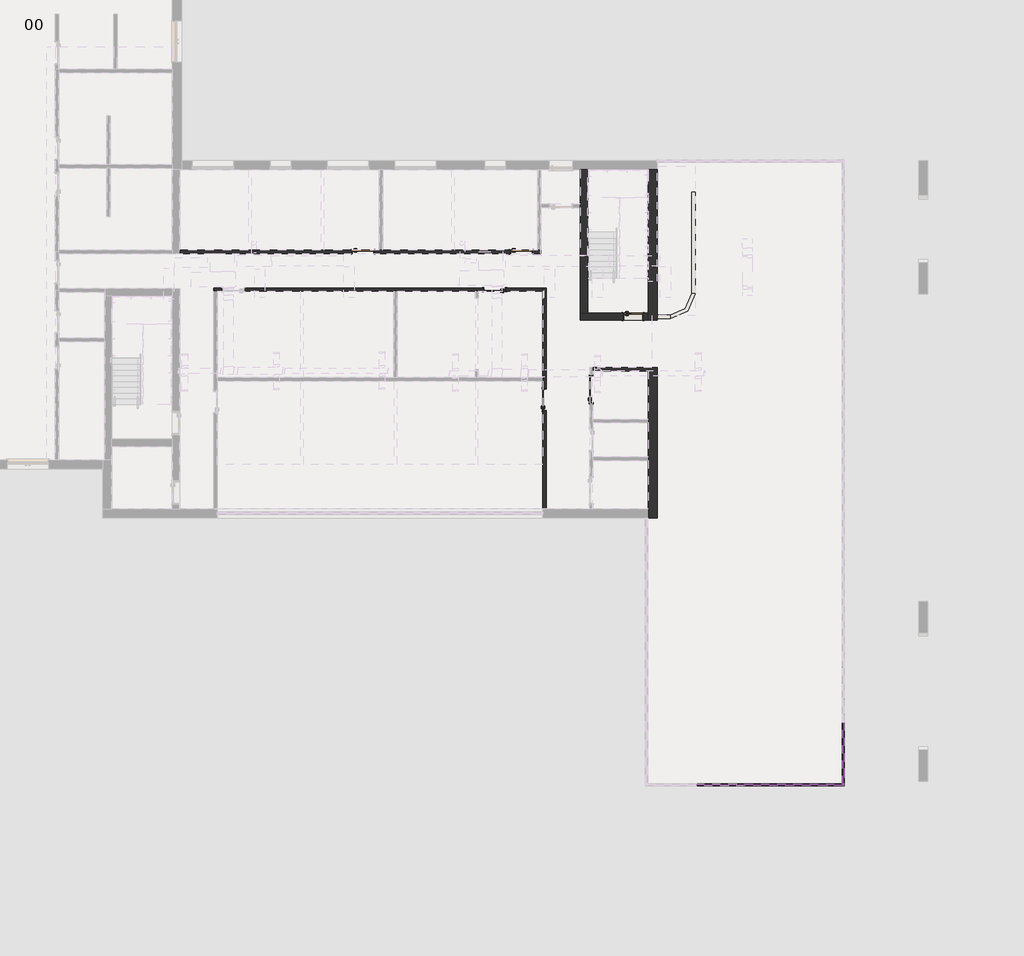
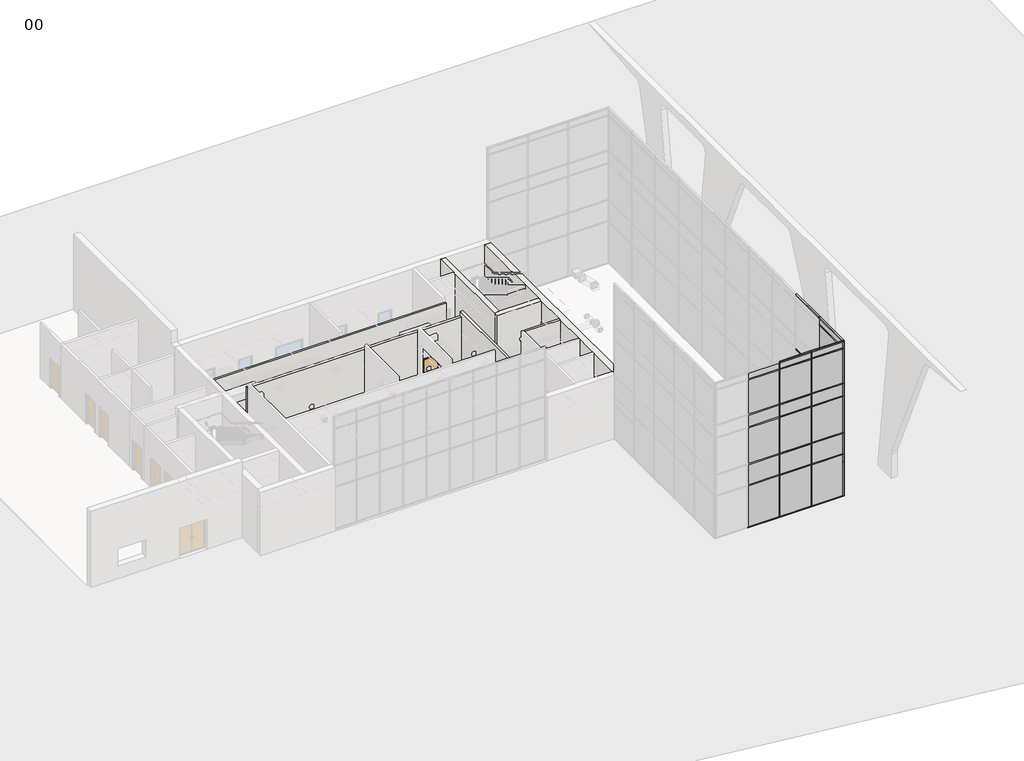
# One storey, part 4 of 12: 53 members, 24 plates, 10 walls, 6 doors.
"""IFC4 building model written with IfcOpenShell, lengths in millimetres."""

from ifc_helpers import new_model, si_unit, point, frame_2d, origin, origin_with_axes, place, context, project, spatial, polyline, circle_curve, trimmed, segment, composite_curve, outline, extrude, faceted_brep, transform, mapped, element, save
from components import doors_intsgl_1_1010x2110mm_12a6edaf, doors_intsgl_1_1200x2110mm_e831e5cc, doors_intsgl_3_910x2110mm_ed6625c4, rectangular_mullion_curtainwallmullion_rectangular_generic_8ae0e668, rectangular_mullion_curtainwallmullion_rectangular_generic_15c16c91, rectangular_mullion_curtainwallmullion_rectangular_generic_08fbcc14, rectangular_mullion_curtainwallmullion_rectangular_generic_83e55909, rectangular_mullion_curtainwallmullion_rectangular_generic_d5294c93, rectangular_mullion_curtainwallmullion_rectangular_generic_779ca808, rectangular_mullion_curtainwallmullion_rectangular_generic_397fb318, rectangular_mullion_curtainwallmullion_rectangular_generic_0800385b, rectangular_mullion_curtainwallmullion_rectangular_generic_25199054, rectangular_mullion_curtainwallmullion_rectangular_generic_12ad56c0, rectangular_mullion_curtainwallmullion_rectangular_generic_bd817207, rectangular_mullion_curtainwallmullion_rectangular_generic_55e77994, rectangular_mullion_curtainwallmullion_rectangular_generic_f1446028, rectangular_mullion_curtainwallmullion_rectangular_generic_cb270087, rectangular_mullion_curtainwallmullion_rectangular_generic_974284e1, rectangular_mullion_curtainwallmullion_rectangular_generic_654ac675, rectangular_mullion_curtainwallmullion_rectangular_generic_e7c47ca9, rectangular_mullion_curtainwallmullion_rectangular_generic_c0600e94, rectangular_mullion_curtainwallmullion_rectangular_generic_3bdb59d8, rectangular_mullion_curtainwallmullion_rectangular_generic_aa8766cf, rectangular_mullion_curtainwallmullion_rectangular_generic_a50df724, rectangular_mullion_curtainwallmullion_rectangular_generic_c640f651, rectangular_mullion_curtainwallmullion_rectangular_generic_afb0b622, rectangular_mullion_curtainwallmullion_rectangular_generic_d47b8a9d, system_panel_curtainpanel_glazed_9120b6e5, system_panel_curtainpanel_glazed_34fb785a, system_panel_curtainpanel_glazed_a0842033, system_panel_curtainpanel_glazed_19b159b3, system_panel_curtainpanel_glazed_62d472f1, system_panel_curtainpanel_glazed_9c2ad216, system_panel_curtainpanel_solid_fc584997, system_panel_curtainpanel_solid_62146879, system_panel_curtainpanel_solid_ebe6707a, system_panel_curtainpanel_solid_ff987cd1, system_panel_curtainpanel_solid_60141125, system_panel_curtainpanel_solid_5de49f81

model = new_model("IFC4")

# Units and contexts
model_context = context("Model", 3, world=origin())
ifc_project = project(units=[si_unit("LENGTHUNIT", "METRE", prefix="MILLI")], contexts=[model_context])

# Site, building, storey
site = spatial("IfcSite", under=ifc_project)
building = spatial("IfcBuilding", under=site)
storey = spatial("IfcBuildingStorey", under=building, Name="00", Elevation=0.0)

# Doors
placement = place(None, origin())
doors_intsgl_1_1010x2110mm_shape = doors_intsgl_1_1010x2110mm_12a6edaf(model_context)
element("IfcDoor", 1, ObjectType="Doors_IntSgl_1 : 1010x2110mm", at=placement, inside=storey, context=model_context, shape_type="MappedRepresentation", body=[
    mapped(doors_intsgl_1_1010x2110mm_shape, transform((433317.3206883, -385124.0026386, 0.0), x_axis=(1.0, 0.0, 0.0), y_axis=(0.0, 1.0, 0.0), z_axis=(0.0, 0.0, 1.0))),
])
element("IfcDoor", 2, ObjectType="Doors_IntSgl_1 : 1010x2110mm", at=placement, inside=storey, context=model_context, shape_type="MappedRepresentation", body=[
    mapped(doors_intsgl_1_1010x2110mm_shape, transform((440217.3206883, -385124.0026386, 0.0), x_axis=(1.0, 0.0, 0.0), y_axis=(0.0, 1.0, 0.0), z_axis=(0.0, 0.0, 1.0))),
])
element("IfcDoor", 3, ObjectType="Doors_IntSgl_1 : 1010x2110mm", at=placement, inside=storey, context=model_context, shape_type="MappedRepresentation", body=[
    mapped(doors_intsgl_1_1010x2110mm_shape, transform((439053.3206883, -386774.0026386, 0.0), x_axis=(-1.0, 0.0, 0.0), y_axis=(0.0, -1.0, 0.0), z_axis=(0.0, 0.0, 1.0))),
])
element("IfcDoor", 4, ObjectType="Doors_IntSgl_1 : 1010x2110mm", at=placement, inside=storey, context=model_context, shape_type="MappedRepresentation", body=[
    mapped(doors_intsgl_1_1010x2110mm_shape, transform((441217.3206883, -391573.0026386, 0.0), x_axis=(0.0, 1.0, 0.0), y_axis=(-1.0, 0.0, 0.0), z_axis=(0.0, 0.0, 1.0))),
])
doors_intsgl_1_1200x2110mm_shape = doors_intsgl_1_1200x2110mm_e831e5cc(model_context)
element("IfcDoor", 5, ObjectType="Doors_IntSgl_1 : 1200x2110mm", at=placement, inside=storey, context=model_context, shape_type="MappedRepresentation", body=[
    mapped(doors_intsgl_1_1200x2110mm_shape, transform((443263.3206883, -391128.0026386, 0.0), x_axis=(0.0, 1.0, 0.0), y_axis=(-1.0, 0.0, 0.0), z_axis=(0.0, 0.0, 1.0))),
])
doors_intsgl_3_910x2110mm_shape = doors_intsgl_3_910x2110mm_ed6625c4(model_context)
element("IfcDoor", 6, ObjectType="Doors_IntSgl_3 : 910x2110mm", at=placement, inside=storey, context=model_context, shape_type="MappedRepresentation", body=[
    mapped(doors_intsgl_3_910x2110mm_shape, transform((445083.3206883, -387955.0026386, 0.0), x_axis=(1.0, 0.0, 0.0), y_axis=(0.0, 1.0, 0.0), z_axis=(0.0, 0.0, 1.0))),
])

# Members
rectangular_mullion_curtainwallmullion_rectangular_generic_shape = rectangular_mullion_curtainwallmullion_rectangular_generic_8ae0e668(model_context)
element("IfcMember", 7, ObjectType="Rectangular Mullion : CurtainWallMullion_Rectangular_Generic", at=placement, inside=storey, context=model_context, shape_type="MappedRepresentation", body=[
    mapped(rectangular_mullion_curtainwallmullion_rectangular_generic_shape, transform((452089.3206882, -408366.0026386, 10486.7), x_axis=(-1.0, 0.0, 0.0), y_axis=(0.0, 1.0, 0.0), z_axis=(0.0, 0.0, -1.0))),
])
element("IfcMember", 8, ObjectType="Rectangular Mullion : CurtainWallMullion_Rectangular_Generic", at=placement, inside=storey, context=model_context, shape_type="MappedRepresentation", body=[
    mapped(rectangular_mullion_curtainwallmullion_rectangular_generic_shape, transform((449957.3206883, -408366.0026386, 10486.7), x_axis=(-1.0, 0.0, 0.0), y_axis=(0.0, 1.0, 0.0), z_axis=(0.0, 0.0, -1.0))),
])
rectangular_mullion_curtainwallmullion_rectangular_generic_2_shape = rectangular_mullion_curtainwallmullion_rectangular_generic_15c16c91(model_context)
element("IfcMember", 9, ObjectType="Rectangular Mullion : CurtainWallMullion_Rectangular_Generic", at=placement, inside=storey, context=model_context, shape_type="MappedRepresentation", body=[
    mapped(rectangular_mullion_curtainwallmullion_rectangular_generic_2_shape, transform((454246.3206883, -408366.0026386, 10486.7), x_axis=(0.0, -1.0, 0.0), y_axis=(-1.0, 0.0, 0.0), z_axis=(0.0, 0.0, -1.0))),
])
element("IfcMember", 10, ObjectType="Rectangular Mullion : CurtainWallMullion_Rectangular_Generic", at=placement, inside=storey, context=model_context, shape_type="MappedRepresentation", body=[
    mapped(rectangular_mullion_curtainwallmullion_rectangular_generic_2_shape, transform((454246.3206883, -408366.0026386, 10950.0), x_axis=(1.0, 0.0, 0.0), y_axis=(0.0, 1.0, 0.0), z_axis=(0.0, 0.0, 1.0))),
])
rectangular_mullion_curtainwallmullion_rectangular_generic_3_shape = rectangular_mullion_curtainwallmullion_rectangular_generic_08fbcc14(model_context)
element("IfcMember", 11, ObjectType="Rectangular Mullion : CurtainWallMullion_Rectangular_Generic", at=placement, inside=storey, context=model_context, shape_type="MappedRepresentation", body=[
    mapped(rectangular_mullion_curtainwallmullion_rectangular_generic_3_shape, transform((452089.3206882, -408366.0026386, 8000.0), x_axis=(-1.0, 0.0, 0.0), y_axis=(0.0, 1.0, 0.0), z_axis=(0.0, 0.0, -1.0))),
])
element("IfcMember", 12, ObjectType="Rectangular Mullion : CurtainWallMullion_Rectangular_Generic", at=placement, inside=storey, context=model_context, shape_type="MappedRepresentation", body=[
    mapped(rectangular_mullion_curtainwallmullion_rectangular_generic_3_shape, transform((449957.3206883, -408366.0026386, 8000.0), x_axis=(-1.0, 0.0, 0.0), y_axis=(0.0, 1.0, 0.0), z_axis=(0.0, 0.0, -1.0))),
])
rectangular_mullion_curtainwallmullion_rectangular_generic_4_shape = rectangular_mullion_curtainwallmullion_rectangular_generic_83e55909(model_context)
element("IfcMember", 13, ObjectType="Rectangular Mullion : CurtainWallMullion_Rectangular_Generic", at=placement, inside=storey, context=model_context, shape_type="MappedRepresentation", body=[
    mapped(rectangular_mullion_curtainwallmullion_rectangular_generic_4_shape, transform((454246.3206883, -408366.0026386, 10486.7), x_axis=(1.0, 0.0, 0.0), y_axis=(0.0, 1.0, 0.0), z_axis=(0.0, 0.0, 1.0))),
])
element("IfcMember", 14, ObjectType="Rectangular Mullion : CurtainWallMullion_Rectangular_Generic", at=placement, inside=storey, context=model_context, shape_type="MappedRepresentation", body=[
    mapped(rectangular_mullion_curtainwallmullion_rectangular_generic_4_shape, transform((454246.3206883, -408366.0026386, 8000.0), x_axis=(0.0, -1.0, 0.0), y_axis=(-1.0, 0.0, 0.0), z_axis=(0.0, 0.0, -1.0))),
])
rectangular_mullion_curtainwallmullion_rectangular_generic_5_shape = rectangular_mullion_curtainwallmullion_rectangular_generic_d5294c93(model_context)
element("IfcMember", 15, ObjectType="Rectangular Mullion : CurtainWallMullion_Rectangular_Generic", at=placement, inside=storey, context=model_context, shape_type="MappedRepresentation", body=[
    mapped(rectangular_mullion_curtainwallmullion_rectangular_generic_5_shape, transform((452089.3206882, -408366.0026386, 50.0), x_axis=(-1.0, 0.0, 0.0), y_axis=(0.0, 1.0, 0.0), z_axis=(0.0, 0.0, -1.0))),
])
element("IfcMember", 16, ObjectType="Rectangular Mullion : CurtainWallMullion_Rectangular_Generic", at=placement, inside=storey, context=model_context, shape_type="MappedRepresentation", body=[
    mapped(rectangular_mullion_curtainwallmullion_rectangular_generic_5_shape, transform((449957.3206883, -408366.0026386, 50.0), x_axis=(-1.0, 0.0, 0.0), y_axis=(0.0, 1.0, 0.0), z_axis=(0.0, 0.0, -1.0))),
])
rectangular_mullion_curtainwallmullion_rectangular_generic_6_shape = rectangular_mullion_curtainwallmullion_rectangular_generic_779ca808(model_context)
element("IfcMember", 17, ObjectType="Rectangular Mullion : CurtainWallMullion_Rectangular_Generic", at=placement, inside=storey, context=model_context, shape_type="MappedRepresentation", body=[
    mapped(rectangular_mullion_curtainwallmullion_rectangular_generic_6_shape, transform((454246.3206883, -408366.0026386, 2450.0), x_axis=(1.0, 0.0, 0.0), y_axis=(0.0, 1.0, 0.0), z_axis=(0.0, 0.0, 1.0))),
])
rectangular_mullion_curtainwallmullion_rectangular_generic_7_shape = rectangular_mullion_curtainwallmullion_rectangular_generic_397fb318(model_context)
element("IfcMember", 18, ObjectType="Rectangular Mullion : CurtainWallMullion_Rectangular_Generic", at=placement, inside=storey, context=model_context, shape_type="MappedRepresentation", body=[
    mapped(rectangular_mullion_curtainwallmullion_rectangular_generic_7_shape, transform((454246.3206883, -408366.0026386, 50.0), x_axis=(0.0, -1.0, 0.0), y_axis=(-1.0, 0.0, 0.0), z_axis=(0.0, 0.0, -1.0))),
])
rectangular_mullion_curtainwallmullion_rectangular_generic_8_shape = rectangular_mullion_curtainwallmullion_rectangular_generic_0800385b(model_context)
element("IfcMember", 19, ObjectType="Rectangular Mullion : CurtainWallMullion_Rectangular_Generic", at=placement, inside=storey, context=model_context, shape_type="MappedRepresentation", body=[
    mapped(rectangular_mullion_curtainwallmullion_rectangular_generic_8_shape, transform((454246.3206883, -408366.0026386, 11000.0), x_axis=(0.0, 0.0, 1.0), y_axis=(-1.0, 0.0, 0.0), z_axis=(0.0, -1.0, 0.0))),
])
rectangular_mullion_curtainwallmullion_rectangular_generic_9_shape = rectangular_mullion_curtainwallmullion_rectangular_generic_25199054(model_context)
element("IfcMember", 20, ObjectType="Rectangular Mullion : CurtainWallMullion_Rectangular_Generic", at=placement, inside=storey, context=model_context, shape_type="MappedRepresentation", body=[
    mapped(rectangular_mullion_curtainwallmullion_rectangular_generic_9_shape, transform((452089.3206882, -408366.0026386, 11000.0), x_axis=(0.0, 0.0, 1.0), y_axis=(0.0, 1.0, 0.0), z_axis=(-1.0, 0.0, 0.0))),
])
rectangular_mullion_curtainwallmullion_rectangular_generic_10_shape = rectangular_mullion_curtainwallmullion_rectangular_generic_12ad56c0(model_context)
element("IfcMember", 21, ObjectType="Rectangular Mullion : CurtainWallMullion_Rectangular_Generic", at=placement, inside=storey, context=model_context, shape_type="MappedRepresentation", body=[
    mapped(rectangular_mullion_curtainwallmullion_rectangular_generic_10_shape, transform((454246.3206883, -405626.4026384, 11000.0), x_axis=(0.0, 0.0, 1.0), y_axis=(-1.0, 0.0, 0.0), z_axis=(0.0, -1.0, 0.0))),
])
rectangular_mullion_curtainwallmullion_rectangular_generic_11_shape = rectangular_mullion_curtainwallmullion_rectangular_generic_bd817207(model_context)
element("IfcMember", 22, ObjectType="Rectangular Mullion : CurtainWallMullion_Rectangular_Generic", at=placement, inside=storey, context=model_context, shape_type="MappedRepresentation", body=[
    mapped(rectangular_mullion_curtainwallmullion_rectangular_generic_11_shape, transform((454246.3206883, -405601.4026384, 4500.0), x_axis=(0.0, 0.0, 1.0), y_axis=(-1.0, 0.0, 0.0), z_axis=(0.0, -1.0, 0.0))),
])
element("IfcMember", 23, ObjectType="Rectangular Mullion : CurtainWallMullion_Rectangular_Generic", at=placement, inside=storey, context=model_context, shape_type="MappedRepresentation", body=[
    mapped(rectangular_mullion_curtainwallmullion_rectangular_generic_11_shape, transform((454246.3206883, -408316.0026386, 4500.0), x_axis=(0.0, 0.0, 1.0), y_axis=(-1.0, 0.0, 0.0), z_axis=(0.0, -1.0, 0.0))),
])
element("IfcMember", 24, ObjectType="Rectangular Mullion : CurtainWallMullion_Rectangular_Generic", at=placement, inside=storey, context=model_context, shape_type="MappedRepresentation", body=[
    mapped(rectangular_mullion_curtainwallmullion_rectangular_generic_11_shape, transform((454246.3206883, -405601.4026384, 7100.0), x_axis=(0.0, 0.0, 1.0), y_axis=(-1.0, 0.0, 0.0), z_axis=(0.0, -1.0, 0.0))),
])
element("IfcMember", 25, ObjectType="Rectangular Mullion : CurtainWallMullion_Rectangular_Generic", at=placement, inside=storey, context=model_context, shape_type="MappedRepresentation", body=[
    mapped(rectangular_mullion_curtainwallmullion_rectangular_generic_11_shape, transform((454246.3206883, -408316.0026386, 7100.0), x_axis=(0.0, 0.0, 1.0), y_axis=(-1.0, 0.0, 0.0), z_axis=(0.0, -1.0, 0.0))),
])
element("IfcMember", 26, ObjectType="Rectangular Mullion : CurtainWallMullion_Rectangular_Generic", at=placement, inside=storey, context=model_context, shape_type="MappedRepresentation", body=[
    mapped(rectangular_mullion_curtainwallmullion_rectangular_generic_11_shape, transform((454246.3206883, -408316.0026386, 10486.7), x_axis=(0.0, 0.0, 1.0), y_axis=(-1.0, 0.0, 0.0), z_axis=(0.0, -1.0, 0.0))),
])
element("IfcMember", 27, ObjectType="Rectangular Mullion : CurtainWallMullion_Rectangular_Generic", at=placement, inside=storey, context=model_context, shape_type="MappedRepresentation", body=[
    mapped(rectangular_mullion_curtainwallmullion_rectangular_generic_11_shape, transform((454246.3206883, -408316.0026386, 8000.0), x_axis=(0.0, 0.0, 1.0), y_axis=(-1.0, 0.0, 0.0), z_axis=(0.0, -1.0, 0.0))),
])
element("IfcMember", 28, ObjectType="Rectangular Mullion : CurtainWallMullion_Rectangular_Generic", at=placement, inside=storey, context=model_context, shape_type="MappedRepresentation", body=[
    mapped(rectangular_mullion_curtainwallmullion_rectangular_generic_11_shape, transform((454246.3206883, -408316.0026386, 3000.0), x_axis=(0.0, 0.0, 1.0), y_axis=(-1.0, 0.0, 0.0), z_axis=(0.0, -1.0, 0.0))),
])
rectangular_mullion_curtainwallmullion_rectangular_generic_12_shape = rectangular_mullion_curtainwallmullion_rectangular_generic_55e77994(model_context)
element("IfcMember", 29, ObjectType="Rectangular Mullion : CurtainWallMullion_Rectangular_Generic", at=placement, inside=storey, context=model_context, shape_type="MappedRepresentation", body=[
    mapped(rectangular_mullion_curtainwallmullion_rectangular_generic_12_shape, transform((454246.3206883, -405626.4026384, 0.0), x_axis=(0.0, 0.0, -1.0), y_axis=(-1.0, 0.0, 0.0), z_axis=(0.0, 1.0, 0.0))),
])
rectangular_mullion_curtainwallmullion_rectangular_generic_13_shape = rectangular_mullion_curtainwallmullion_rectangular_generic_f1446028(model_context)
element("IfcMember", 30, ObjectType="Rectangular Mullion : CurtainWallMullion_Rectangular_Generic", at=placement, inside=storey, context=model_context, shape_type="MappedRepresentation", body=[
    mapped(rectangular_mullion_curtainwallmullion_rectangular_generic_13_shape, transform((454246.3206883, -408366.0026386, 0.0), x_axis=(0.0, 0.0, -1.0), y_axis=(0.0, 1.0, 0.0), z_axis=(1.0, 0.0, 0.0))),
])
rectangular_mullion_curtainwallmullion_rectangular_generic_14_shape = rectangular_mullion_curtainwallmullion_rectangular_generic_cb270087(model_context)
element("IfcMember", 31, ObjectType="Rectangular Mullion : CurtainWallMullion_Rectangular_Generic", at=placement, inside=storey, context=model_context, shape_type="MappedRepresentation", body=[
    mapped(rectangular_mullion_curtainwallmullion_rectangular_generic_14_shape, transform((449957.3206883, -408366.0026386, 11000.0), x_axis=(0.0, 0.0, 1.0), y_axis=(0.0, 1.0, 0.0), z_axis=(-1.0, 0.0, 0.0))),
])
element("IfcMember", 32, ObjectType="Rectangular Mullion : CurtainWallMullion_Rectangular_Generic", at=placement, inside=storey, context=model_context, shape_type="MappedRepresentation", body=[
    mapped(rectangular_mullion_curtainwallmullion_rectangular_generic_14_shape, transform((452089.3206882, -408366.0026386, 0.0), x_axis=(0.0, 0.0, -1.0), y_axis=(0.0, 1.0, 0.0), z_axis=(1.0, 0.0, 0.0))),
])
element("IfcMember", 33, ObjectType="Rectangular Mullion : CurtainWallMullion_Rectangular_Generic", at=placement, inside=storey, context=model_context, shape_type="MappedRepresentation", body=[
    mapped(rectangular_mullion_curtainwallmullion_rectangular_generic_14_shape, transform((449957.3206883, -408366.0026386, 0.0), x_axis=(0.0, 0.0, -1.0), y_axis=(0.0, 1.0, 0.0), z_axis=(1.0, 0.0, 0.0))),
])
rectangular_mullion_curtainwallmullion_rectangular_generic_15_shape = rectangular_mullion_curtainwallmullion_rectangular_generic_974284e1(model_context)
element("IfcMember", 34, ObjectType="Rectangular Mullion : CurtainWallMullion_Rectangular_Generic", at=placement, inside=storey, context=model_context, shape_type="MappedRepresentation", body=[
    mapped(rectangular_mullion_curtainwallmullion_rectangular_generic_15_shape, transform((452114.3206882, -408366.0026386, 4500.0), x_axis=(0.0, 0.0, 1.0), y_axis=(0.0, 1.0, 0.0), z_axis=(-1.0, 0.0, 0.0))),
])
element("IfcMember", 35, ObjectType="Rectangular Mullion : CurtainWallMullion_Rectangular_Generic", at=placement, inside=storey, context=model_context, shape_type="MappedRepresentation", body=[
    mapped(rectangular_mullion_curtainwallmullion_rectangular_generic_15_shape, transform((449982.3206883, -408366.0026386, 4500.0), x_axis=(0.0, 0.0, 1.0), y_axis=(0.0, 1.0, 0.0), z_axis=(-1.0, 0.0, 0.0))),
])
element("IfcMember", 36, ObjectType="Rectangular Mullion : CurtainWallMullion_Rectangular_Generic", at=placement, inside=storey, context=model_context, shape_type="MappedRepresentation", body=[
    mapped(rectangular_mullion_curtainwallmullion_rectangular_generic_15_shape, transform((452114.3206882, -408366.0026386, 7100.0), x_axis=(0.0, 0.0, 1.0), y_axis=(0.0, 1.0, 0.0), z_axis=(-1.0, 0.0, 0.0))),
])
element("IfcMember", 37, ObjectType="Rectangular Mullion : CurtainWallMullion_Rectangular_Generic", at=placement, inside=storey, context=model_context, shape_type="MappedRepresentation", body=[
    mapped(rectangular_mullion_curtainwallmullion_rectangular_generic_15_shape, transform((449982.3206883, -408366.0026386, 7100.0), x_axis=(0.0, 0.0, 1.0), y_axis=(0.0, 1.0, 0.0), z_axis=(-1.0, 0.0, 0.0))),
])
element("IfcMember", 38, ObjectType="Rectangular Mullion : CurtainWallMullion_Rectangular_Generic", at=placement, inside=storey, context=model_context, shape_type="MappedRepresentation", body=[
    mapped(rectangular_mullion_curtainwallmullion_rectangular_generic_15_shape, transform((452114.3206882, -408366.0026386, 10486.7), x_axis=(0.0, 0.0, 1.0), y_axis=(0.0, 1.0, 0.0), z_axis=(-1.0, 0.0, 0.0))),
])
element("IfcMember", 39, ObjectType="Rectangular Mullion : CurtainWallMullion_Rectangular_Generic", at=placement, inside=storey, context=model_context, shape_type="MappedRepresentation", body=[
    mapped(rectangular_mullion_curtainwallmullion_rectangular_generic_15_shape, transform((449982.3206883, -408366.0026386, 10486.7), x_axis=(0.0, 0.0, 1.0), y_axis=(0.0, 1.0, 0.0), z_axis=(-1.0, 0.0, 0.0))),
])
element("IfcMember", 40, ObjectType="Rectangular Mullion : CurtainWallMullion_Rectangular_Generic", at=placement, inside=storey, context=model_context, shape_type="MappedRepresentation", body=[
    mapped(rectangular_mullion_curtainwallmullion_rectangular_generic_15_shape, transform((452114.3206882, -408366.0026386, 3000.0), x_axis=(0.0, 0.0, 1.0), y_axis=(0.0, 1.0, 0.0), z_axis=(-1.0, 0.0, 0.0))),
])
element("IfcMember", 41, ObjectType="Rectangular Mullion : CurtainWallMullion_Rectangular_Generic", at=placement, inside=storey, context=model_context, shape_type="MappedRepresentation", body=[
    mapped(rectangular_mullion_curtainwallmullion_rectangular_generic_15_shape, transform((449982.3206883, -408366.0026386, 3000.0), x_axis=(0.0, 0.0, 1.0), y_axis=(0.0, 1.0, 0.0), z_axis=(-1.0, 0.0, 0.0))),
])
element("IfcMember", 42, ObjectType="Rectangular Mullion : CurtainWallMullion_Rectangular_Generic", at=placement, inside=storey, context=model_context, shape_type="MappedRepresentation", body=[
    mapped(rectangular_mullion_curtainwallmullion_rectangular_generic_15_shape, transform((452114.3206882, -408366.0026386, 8000.0), x_axis=(0.0, 0.0, 1.0), y_axis=(0.0, 1.0, 0.0), z_axis=(-1.0, 0.0, 0.0))),
])
element("IfcMember", 43, ObjectType="Rectangular Mullion : CurtainWallMullion_Rectangular_Generic", at=placement, inside=storey, context=model_context, shape_type="MappedRepresentation", body=[
    mapped(rectangular_mullion_curtainwallmullion_rectangular_generic_15_shape, transform((449982.3206883, -408366.0026386, 8000.0), x_axis=(0.0, 0.0, 1.0), y_axis=(0.0, 1.0, 0.0), z_axis=(-1.0, 0.0, 0.0))),
])
rectangular_mullion_curtainwallmullion_rectangular_generic_16_shape = rectangular_mullion_curtainwallmullion_rectangular_generic_654ac675(model_context)
element("IfcMember", 44, ObjectType="Rectangular Mullion : CurtainWallMullion_Rectangular_Generic", at=placement, inside=storey, context=model_context, shape_type="MappedRepresentation", body=[
    mapped(rectangular_mullion_curtainwallmullion_rectangular_generic_16_shape, transform((452089.3206882, -408366.0026386, 4500.0), x_axis=(-1.0, 0.0, 0.0), y_axis=(0.0, 1.0, 0.0), z_axis=(0.0, 0.0, -1.0))),
])
element("IfcMember", 45, ObjectType="Rectangular Mullion : CurtainWallMullion_Rectangular_Generic", at=placement, inside=storey, context=model_context, shape_type="MappedRepresentation", body=[
    mapped(rectangular_mullion_curtainwallmullion_rectangular_generic_16_shape, transform((449957.3206883, -408366.0026386, 4500.0), x_axis=(-1.0, 0.0, 0.0), y_axis=(0.0, 1.0, 0.0), z_axis=(0.0, 0.0, -1.0))),
])
rectangular_mullion_curtainwallmullion_rectangular_generic_17_shape = rectangular_mullion_curtainwallmullion_rectangular_generic_e7c47ca9(model_context)
element("IfcMember", 46, ObjectType="Rectangular Mullion : CurtainWallMullion_Rectangular_Generic", at=placement, inside=storey, context=model_context, shape_type="MappedRepresentation", body=[
    mapped(rectangular_mullion_curtainwallmullion_rectangular_generic_17_shape, transform((454246.3206883, -408366.0026386, 4500.0), x_axis=(0.0, -1.0, 0.0), y_axis=(-1.0, 0.0, 0.0), z_axis=(0.0, 0.0, -1.0))),
])
element("IfcMember", 47, ObjectType="Rectangular Mullion : CurtainWallMullion_Rectangular_Generic", at=placement, inside=storey, context=model_context, shape_type="MappedRepresentation", body=[
    mapped(rectangular_mullion_curtainwallmullion_rectangular_generic_17_shape, transform((454246.3206883, -408366.0026386, 7100.0), x_axis=(1.0, 0.0, 0.0), y_axis=(0.0, 1.0, 0.0), z_axis=(0.0, 0.0, 1.0))),
])
rectangular_mullion_curtainwallmullion_rectangular_generic_18_shape = rectangular_mullion_curtainwallmullion_rectangular_generic_c0600e94(model_context)
element("IfcMember", 48, ObjectType="Rectangular Mullion : CurtainWallMullion_Rectangular_Generic", at=placement, inside=storey, context=model_context, shape_type="MappedRepresentation", body=[
    mapped(rectangular_mullion_curtainwallmullion_rectangular_generic_18_shape, transform((452089.3206882, -408366.0026386, 3000.0), x_axis=(-1.0, 0.0, 0.0), y_axis=(0.0, 1.0, 0.0), z_axis=(0.0, 0.0, -1.0))),
])
element("IfcMember", 49, ObjectType="Rectangular Mullion : CurtainWallMullion_Rectangular_Generic", at=placement, inside=storey, context=model_context, shape_type="MappedRepresentation", body=[
    mapped(rectangular_mullion_curtainwallmullion_rectangular_generic_18_shape, transform((449957.3206883, -408366.0026386, 3000.0), x_axis=(-1.0, 0.0, 0.0), y_axis=(0.0, 1.0, 0.0), z_axis=(0.0, 0.0, -1.0))),
])
rectangular_mullion_curtainwallmullion_rectangular_generic_19_shape = rectangular_mullion_curtainwallmullion_rectangular_generic_3bdb59d8(model_context)
element("IfcMember", 50, ObjectType="Rectangular Mullion : CurtainWallMullion_Rectangular_Generic", at=placement, inside=storey, context=model_context, shape_type="MappedRepresentation", body=[
    mapped(rectangular_mullion_curtainwallmullion_rectangular_generic_19_shape, transform((454246.3206883, -408366.0026386, 3000.0), x_axis=(0.0, -1.0, 0.0), y_axis=(-1.0, 0.0, 0.0), z_axis=(0.0, 0.0, -1.0))),
])
element("IfcMember", 51, ObjectType="Rectangular Mullion : CurtainWallMullion_Rectangular_Generic", at=placement, inside=storey, context=model_context, shape_type="MappedRepresentation", body=[
    mapped(rectangular_mullion_curtainwallmullion_rectangular_generic_19_shape, transform((454246.3206883, -408366.0026386, 4500.0), x_axis=(1.0, 0.0, 0.0), y_axis=(0.0, 1.0, 0.0), z_axis=(0.0, 0.0, 1.0))),
])
rectangular_mullion_curtainwallmullion_rectangular_generic_20_shape = rectangular_mullion_curtainwallmullion_rectangular_generic_aa8766cf(model_context)
element("IfcMember", 52, ObjectType="Rectangular Mullion : CurtainWallMullion_Rectangular_Generic", at=placement, inside=storey, context=model_context, shape_type="MappedRepresentation", body=[
    mapped(rectangular_mullion_curtainwallmullion_rectangular_generic_20_shape, transform((452089.3206882, -408366.0026386, 2450.0), x_axis=(-1.0, 0.0, 0.0), y_axis=(0.0, 1.0, 0.0), z_axis=(0.0, 0.0, -1.0))),
])
element("IfcMember", 53, ObjectType="Rectangular Mullion : CurtainWallMullion_Rectangular_Generic", at=placement, inside=storey, context=model_context, shape_type="MappedRepresentation", body=[
    mapped(rectangular_mullion_curtainwallmullion_rectangular_generic_20_shape, transform((449957.3206883, -408366.0026386, 2450.0), x_axis=(-1.0, 0.0, 0.0), y_axis=(0.0, 1.0, 0.0), z_axis=(0.0, 0.0, -1.0))),
])
rectangular_mullion_curtainwallmullion_rectangular_generic_21_shape = rectangular_mullion_curtainwallmullion_rectangular_generic_a50df724(model_context)
element("IfcMember", 54, ObjectType="Rectangular Mullion : CurtainWallMullion_Rectangular_Generic", at=placement, inside=storey, context=model_context, shape_type="MappedRepresentation", body=[
    mapped(rectangular_mullion_curtainwallmullion_rectangular_generic_21_shape, transform((454246.3206883, -408366.0026386, 3000.0), x_axis=(1.0, 0.0, 0.0), y_axis=(0.0, 1.0, 0.0), z_axis=(0.0, 0.0, 1.0))),
])
rectangular_mullion_curtainwallmullion_rectangular_generic_22_shape = rectangular_mullion_curtainwallmullion_rectangular_generic_c640f651(model_context)
element("IfcMember", 55, ObjectType="Rectangular Mullion : CurtainWallMullion_Rectangular_Generic", at=placement, inside=storey, context=model_context, shape_type="MappedRepresentation", body=[
    mapped(rectangular_mullion_curtainwallmullion_rectangular_generic_22_shape, transform((452089.3206882, -408366.0026386, 7100.0), x_axis=(-1.0, 0.0, 0.0), y_axis=(0.0, 1.0, 0.0), z_axis=(0.0, 0.0, -1.0))),
])
element("IfcMember", 56, ObjectType="Rectangular Mullion : CurtainWallMullion_Rectangular_Generic", at=placement, inside=storey, context=model_context, shape_type="MappedRepresentation", body=[
    mapped(rectangular_mullion_curtainwallmullion_rectangular_generic_22_shape, transform((449957.3206883, -408366.0026386, 7100.0), x_axis=(-1.0, 0.0, 0.0), y_axis=(0.0, 1.0, 0.0), z_axis=(0.0, 0.0, -1.0))),
])
rectangular_mullion_curtainwallmullion_rectangular_generic_23_shape = rectangular_mullion_curtainwallmullion_rectangular_generic_afb0b622(model_context)
element("IfcMember", 57, ObjectType="Rectangular Mullion : CurtainWallMullion_Rectangular_Generic", at=placement, inside=storey, context=model_context, shape_type="MappedRepresentation", body=[
    mapped(rectangular_mullion_curtainwallmullion_rectangular_generic_23_shape, transform((454246.3206883, -408366.0026386, 7100.0), x_axis=(0.0, -1.0, 0.0), y_axis=(-1.0, 0.0, 0.0), z_axis=(0.0, 0.0, -1.0))),
])
element("IfcMember", 58, ObjectType="Rectangular Mullion : CurtainWallMullion_Rectangular_Generic", at=placement, inside=storey, context=model_context, shape_type="MappedRepresentation", body=[
    mapped(rectangular_mullion_curtainwallmullion_rectangular_generic_23_shape, transform((454246.3206883, -408366.0026386, 8000.0), x_axis=(1.0, 0.0, 0.0), y_axis=(0.0, 1.0, 0.0), z_axis=(0.0, 0.0, 1.0))),
])
rectangular_mullion_curtainwallmullion_rectangular_generic_24_shape = rectangular_mullion_curtainwallmullion_rectangular_generic_d47b8a9d(model_context)
element("IfcMember", 59, ObjectType="Rectangular Mullion : CurtainWallMullion_Rectangular_Generic", at=placement, inside=storey, context=model_context, shape_type="MappedRepresentation", body=[
    mapped(rectangular_mullion_curtainwallmullion_rectangular_generic_24_shape, transform((454246.3206883, -408366.0026386, 2425.0), x_axis=(0.0, -1.0, 0.0), y_axis=(-1.0, 0.0, 0.0), z_axis=(0.0, 0.0, -1.0))),
])

# Plates
system_panel_curtainpanel_glazed_shape = system_panel_curtainpanel_glazed_9120b6e5(model_context)
element("IfcPlate", 60, ObjectType="System Panel : CurtainPanel_Glazed", at=placement, inside=storey, context=model_context, shape_type="MappedRepresentation", body=[
    mapped(system_panel_curtainpanel_glazed_shape, transform((453155.3206883, -408366.0026386, 8025.0), x_axis=(-1.0, 0.0, 0.0), y_axis=(0.0, -1.0, 0.0), z_axis=(0.0, 0.0, 1.0))),
])
element("IfcPlate", 61, ObjectType="System Panel : CurtainPanel_Glazed", at=placement, inside=storey, context=model_context, shape_type="MappedRepresentation", body=[
    mapped(system_panel_curtainpanel_glazed_shape, transform((451023.3206883, -408366.0026386, 8025.0), x_axis=(-1.0, 0.0, 0.0), y_axis=(0.0, -1.0, 0.0), z_axis=(0.0, 0.0, 1.0))),
])
element("IfcPlate", 62, ObjectType="System Panel : CurtainPanel_Glazed", at=placement, inside=storey, context=model_context, shape_type="MappedRepresentation", body=[
    mapped(system_panel_curtainpanel_glazed_shape, transform((448891.3206884, -408366.0026386, 8025.0), x_axis=(-1.0, 0.0, 0.0), y_axis=(0.0, -1.0, 0.0), z_axis=(0.0, 0.0, 1.0))),
])
system_panel_curtainpanel_glazed_2_shape = system_panel_curtainpanel_glazed_34fb785a(model_context)
element("IfcPlate", 63, ObjectType="System Panel : CurtainPanel_Glazed", at=placement, inside=storey, context=model_context, shape_type="MappedRepresentation", body=[
    mapped(system_panel_curtainpanel_glazed_2_shape, transform((454246.3206883, -406983.7026385, 8025.0), x_axis=(0.0, -1.0, 0.0), y_axis=(1.0, 0.0, 0.0), z_axis=(0.0, 0.0, 1.0))),
])
system_panel_curtainpanel_glazed_3_shape = system_panel_curtainpanel_glazed_a0842033(model_context)
element("IfcPlate", 64, ObjectType="System Panel : CurtainPanel_Glazed", at=placement, inside=storey, context=model_context, shape_type="MappedRepresentation", body=[
    mapped(system_panel_curtainpanel_glazed_3_shape, transform((453155.3206883, -408366.0026386, 50.0), x_axis=(-1.0, 0.0, 0.0), y_axis=(0.0, -1.0, 0.0), z_axis=(0.0, 0.0, 1.0))),
])
element("IfcPlate", 65, ObjectType="System Panel : CurtainPanel_Glazed", at=placement, inside=storey, context=model_context, shape_type="MappedRepresentation", body=[
    mapped(system_panel_curtainpanel_glazed_3_shape, transform((451023.3206883, -408366.0026386, 50.0), x_axis=(-1.0, 0.0, 0.0), y_axis=(0.0, -1.0, 0.0), z_axis=(0.0, 0.0, 1.0))),
])
element("IfcPlate", 66, ObjectType="System Panel : CurtainPanel_Glazed", at=placement, inside=storey, context=model_context, shape_type="MappedRepresentation", body=[
    mapped(system_panel_curtainpanel_glazed_3_shape, transform((448891.3206884, -408366.0026386, 50.0), x_axis=(-1.0, 0.0, 0.0), y_axis=(0.0, -1.0, 0.0), z_axis=(0.0, 0.0, 1.0))),
])
system_panel_curtainpanel_glazed_4_shape = system_panel_curtainpanel_glazed_19b159b3(model_context)
element("IfcPlate", 67, ObjectType="System Panel : CurtainPanel_Glazed", at=placement, inside=storey, context=model_context, shape_type="MappedRepresentation", body=[
    mapped(system_panel_curtainpanel_glazed_4_shape, transform((453155.3206883, -408366.0026386, 4525.0), x_axis=(-1.0, 0.0, 0.0), y_axis=(0.0, -1.0, 0.0), z_axis=(0.0, 0.0, 1.0))),
])
element("IfcPlate", 68, ObjectType="System Panel : CurtainPanel_Glazed", at=placement, inside=storey, context=model_context, shape_type="MappedRepresentation", body=[
    mapped(system_panel_curtainpanel_glazed_4_shape, transform((451023.3206883, -408366.0026386, 4525.0), x_axis=(-1.0, 0.0, 0.0), y_axis=(0.0, -1.0, 0.0), z_axis=(0.0, 0.0, 1.0))),
])
element("IfcPlate", 69, ObjectType="System Panel : CurtainPanel_Glazed", at=placement, inside=storey, context=model_context, shape_type="MappedRepresentation", body=[
    mapped(system_panel_curtainpanel_glazed_4_shape, transform((448891.3206884, -408366.0026386, 4525.0), x_axis=(-1.0, 0.0, 0.0), y_axis=(0.0, -1.0, 0.0), z_axis=(0.0, 0.0, 1.0))),
])
system_panel_curtainpanel_glazed_5_shape = system_panel_curtainpanel_glazed_62d472f1(model_context)
element("IfcPlate", 70, ObjectType="System Panel : CurtainPanel_Glazed", at=placement, inside=storey, context=model_context, shape_type="MappedRepresentation", body=[
    mapped(system_panel_curtainpanel_glazed_5_shape, transform((454246.3206883, -406983.7026385, 50.0), x_axis=(0.0, -1.0, 0.0), y_axis=(1.0, 0.0, 0.0), z_axis=(0.0, 0.0, 1.0))),
])
system_panel_curtainpanel_glazed_6_shape = system_panel_curtainpanel_glazed_9c2ad216(model_context)
element("IfcPlate", 71, ObjectType="System Panel : CurtainPanel_Glazed", at=placement, inside=storey, context=model_context, shape_type="MappedRepresentation", body=[
    mapped(system_panel_curtainpanel_glazed_6_shape, transform((454246.3206883, -406983.7026385, 4525.0), x_axis=(0.0, -1.0, 0.0), y_axis=(1.0, 0.0, 0.0), z_axis=(0.0, 0.0, 1.0))),
])
system_panel_curtainpanel_solid_shape = system_panel_curtainpanel_solid_fc584997(model_context)
element("IfcPlate", 72, ObjectType="System Panel : CurtainPanel_Solid", at=placement, inside=storey, context=model_context, shape_type="MappedRepresentation", body=[
    mapped(system_panel_curtainpanel_solid_shape, transform((454246.3206883, -406983.7026385, 10511.7), x_axis=(0.0, -1.0, 0.0), y_axis=(1.0, 0.0, 0.0), z_axis=(0.0, 0.0, 1.0))),
])
system_panel_curtainpanel_solid_2_shape = system_panel_curtainpanel_solid_62146879(model_context)
element("IfcPlate", 73, ObjectType="System Panel : CurtainPanel_Solid", at=placement, inside=storey, context=model_context, shape_type="MappedRepresentation", body=[
    mapped(system_panel_curtainpanel_solid_2_shape, transform((453155.3206883, -408366.0026386, 10511.7), x_axis=(-1.0, 0.0, 0.0), y_axis=(0.0, -1.0, 0.0), z_axis=(0.0, 0.0, 1.0))),
])
element("IfcPlate", 74, ObjectType="System Panel : CurtainPanel_Solid", at=placement, inside=storey, context=model_context, shape_type="MappedRepresentation", body=[
    mapped(system_panel_curtainpanel_solid_2_shape, transform((451023.3206883, -408366.0026386, 10511.7), x_axis=(-1.0, 0.0, 0.0), y_axis=(0.0, -1.0, 0.0), z_axis=(0.0, 0.0, 1.0))),
])
element("IfcPlate", 75, ObjectType="System Panel : CurtainPanel_Solid", at=placement, inside=storey, context=model_context, shape_type="MappedRepresentation", body=[
    mapped(system_panel_curtainpanel_solid_2_shape, transform((448891.3206884, -408366.0026386, 10511.7), x_axis=(-1.0, 0.0, 0.0), y_axis=(0.0, -1.0, 0.0), z_axis=(0.0, 0.0, 1.0))),
])
system_panel_curtainpanel_solid_3_shape = system_panel_curtainpanel_solid_ebe6707a(model_context)
element("IfcPlate", 76, ObjectType="System Panel : CurtainPanel_Solid", at=placement, inside=storey, context=model_context, shape_type="MappedRepresentation", body=[
    mapped(system_panel_curtainpanel_solid_3_shape, transform((453155.3206883, -408366.0026386, 3025.0), x_axis=(-1.0, 0.0, 0.0), y_axis=(0.0, -1.0, 0.0), z_axis=(0.0, 0.0, 1.0))),
])
element("IfcPlate", 77, ObjectType="System Panel : CurtainPanel_Solid", at=placement, inside=storey, context=model_context, shape_type="MappedRepresentation", body=[
    mapped(system_panel_curtainpanel_solid_3_shape, transform((451023.3206883, -408366.0026386, 3025.0), x_axis=(-1.0, 0.0, 0.0), y_axis=(0.0, -1.0, 0.0), z_axis=(0.0, 0.0, 1.0))),
])
element("IfcPlate", 78, ObjectType="System Panel : CurtainPanel_Solid", at=placement, inside=storey, context=model_context, shape_type="MappedRepresentation", body=[
    mapped(system_panel_curtainpanel_solid_3_shape, transform((448891.3206884, -408366.0026386, 3025.0), x_axis=(-1.0, 0.0, 0.0), y_axis=(0.0, -1.0, 0.0), z_axis=(0.0, 0.0, 1.0))),
])
system_panel_curtainpanel_solid_4_shape = system_panel_curtainpanel_solid_ff987cd1(model_context)
element("IfcPlate", 79, ObjectType="System Panel : CurtainPanel_Solid", at=placement, inside=storey, context=model_context, shape_type="MappedRepresentation", body=[
    mapped(system_panel_curtainpanel_solid_4_shape, transform((453155.3206883, -408366.0026386, 7125.0), x_axis=(-1.0, 0.0, 0.0), y_axis=(0.0, -1.0, 0.0), z_axis=(0.0, 0.0, 1.0))),
])
element("IfcPlate", 80, ObjectType="System Panel : CurtainPanel_Solid", at=placement, inside=storey, context=model_context, shape_type="MappedRepresentation", body=[
    mapped(system_panel_curtainpanel_solid_4_shape, transform((451023.3206883, -408366.0026386, 7125.0), x_axis=(-1.0, 0.0, 0.0), y_axis=(0.0, -1.0, 0.0), z_axis=(0.0, 0.0, 1.0))),
])
element("IfcPlate", 81, ObjectType="System Panel : CurtainPanel_Solid", at=placement, inside=storey, context=model_context, shape_type="MappedRepresentation", body=[
    mapped(system_panel_curtainpanel_solid_4_shape, transform((448891.3206884, -408366.0026386, 7125.0), x_axis=(-1.0, 0.0, 0.0), y_axis=(0.0, -1.0, 0.0), z_axis=(0.0, 0.0, 1.0))),
])
system_panel_curtainpanel_solid_5_shape = system_panel_curtainpanel_solid_60141125(model_context)
element("IfcPlate", 82, ObjectType="System Panel : CurtainPanel_Solid", at=placement, inside=storey, context=model_context, shape_type="MappedRepresentation", body=[
    mapped(system_panel_curtainpanel_solid_5_shape, transform((454246.3206883, -406983.7026385, 3025.0), x_axis=(0.0, -1.0, 0.0), y_axis=(1.0, 0.0, 0.0), z_axis=(0.0, 0.0, 1.0))),
])
system_panel_curtainpanel_solid_6_shape = system_panel_curtainpanel_solid_5de49f81(model_context)
element("IfcPlate", 83, ObjectType="System Panel : CurtainPanel_Solid", at=placement, inside=storey, context=model_context, shape_type="MappedRepresentation", body=[
    mapped(system_panel_curtainpanel_solid_6_shape, transform((454246.3206883, -406983.7026385, 7125.0), x_axis=(0.0, -1.0, 0.0), y_axis=(1.0, 0.0, 0.0), z_axis=(0.0, 0.0, 1.0))),
])

# Walls
element("IfcWall", 84, ObjectType="Wall_Exterior_WSUK", at=placement, inside=storey, context=model_context, shape_type="Brep", body=[
    faceted_brep([(445738.3206883, -381550.0026386, -1000.0), (445738.3206883, -387800.0026386, -1000.0), (445738.3206883, -388110.0026386, -1000.0), (445738.3206883, -396328.0026386, -1000.0), (445738.3206883, -396730.0026386, -1000.0), (445738.3206883, -396730.0026386, 4500.0), (445738.3206883, -396328.0026386, 4500.0), (445738.3206883, -394228.0026386, 4500.0), (445738.3206883, -394078.0026386, 4500.0), (445738.3206883, -392578.0026386, 4500.0), (445738.3206883, -392428.0026386, 4500.0), (445738.3206883, -390328.0026386, 4500.0), (445738.3206883, -390178.0026386, 4500.0), (445738.3206883, -388110.0026386, 4500.0), (445738.3206883, -387800.0026386, 4500.0), (445738.3206883, -381550.0026386, 4500.0), (445738.3206883, -388110.0026386, 3000.0), (445738.3206883, -390178.0026386, 3000.0), (445738.3206883, -390178.0026386, 0.0), (445738.3206883, -390178.0026386, -500.0), (445738.3206883, -388110.0026386, -500.0), (445738.3206883, -388110.0026386, 0.0), (445738.3206883, -388030.0026386, 0.0), (445738.3206883, -388030.0026386, 800.0), (445738.3206883, -388110.0026386, 800.0), (446140.3206883, -396730.0026386, 4500.0), (446140.3206883, -396730.0026386, -1000.0), (446140.3206883, -381550.0026386, -1000.0), (446140.3206883, -381550.0026386, 4500.0), (446140.3206883, -388110.0026386, 4500.0), (446140.3206883, -390178.0026386, 4500.0), (446140.3206883, -390178.0026386, 3000.0), (446140.3206883, -388110.0026386, 3000.0), (446140.3206883, -388110.0026386, 800.0), (446140.3206883, -388030.0026386, 800.0), (446140.3206883, -388030.0026386, 0.0), (446140.3206883, -388110.0026386, 0.0), (446140.3206883, -388110.0026386, -500.0), (446140.3206883, -390178.0026386, -500.0)], [[[0, 1, 2, 3, 4, 5, 6, 7, 8, 9, 10, 11, 12, 13, 14, 15], [16, 17, 18, 19, 20, 21, 22, 23, 24]], [[25, 26, 27, 28, 29, 30], [31, 32, 33, 34, 35, 36, 37, 38]], [[4, 3, 2, 1, 0, 27, 26]], [[15, 14, 13, 12, 11, 10, 9, 8, 7, 6, 5, 25, 30, 29, 28]], [[0, 15, 28, 27]], [[4, 26, 25, 5]], [[16, 32, 31, 17]], [[19, 38, 37, 20]], [[32, 16, 24, 33]], [[35, 22, 21, 36]], [[21, 20, 37, 36]], [[33, 24, 23, 34]], [[23, 22, 35, 34]], [[17, 31, 38, 19, 18]]]),
])
element("IfcWall", 85, ObjectType="Wall_Interior_WSUK", at=placement, inside=storey, context=model_context, shape_type="Brep", body=[
    faceted_brep([(441072.3206883, -385199.0026386, 0.0), (441072.3206883, -385199.0026386, 4200.0), (425322.3206883, -385199.0026386, 4200.0), (425322.3206883, -385199.0026386, 3019.2), (425322.3206883, -385199.0026386, 0.0), (432812.3206883, -385199.0026386, 0.0), (432812.3206883, -385199.0026386, 2110.0), (433822.3206883, -385199.0026386, 2110.0), (433822.3206883, -385199.0026386, 0.0), (439712.3206883, -385199.0026386, 0.0), (439712.3206883, -385199.0026386, 2110.0), (440722.3206883, -385199.0026386, 2110.0), (440722.3206883, -385199.0026386, 0.0), (441072.3206883, -385049.0026386, 4200.0), (441072.3206883, -385049.0026386, 0.0), (440922.3206883, -385049.0026386, 0.0), (440722.3206883, -385049.0026386, 0.0), (440722.3206883, -385049.0026386, 2110.0), (439712.3206883, -385049.0026386, 2110.0), (439712.3206883, -385049.0026386, 0.0), (434172.3206883, -385049.0026386, 0.0), (434022.3206883, -385049.0026386, 0.0), (433822.3206883, -385049.0026386, 0.0), (433822.3206883, -385049.0026386, 2110.0), (432812.3206883, -385049.0026386, 2110.0), (432812.3206883, -385049.0026386, 0.0), (425322.3206883, -385049.0026386, 0.0), (425322.3206883, -385049.0026386, 4200.0)], [[[0, 1, 2, 3, 4, 5, 6, 7, 8, 9, 10, 11, 12]], [[13, 14, 15, 16, 17, 18, 19, 20, 21, 22, 23, 24, 25, 26, 27]], [[14, 0, 12, 16, 15]], [[8, 22, 21, 20, 19, 9]], [[25, 5, 4, 26]], [[1, 0, 14, 13]], [[7, 23, 22, 8]], [[23, 7, 6, 24]], [[24, 6, 5, 25]], [[11, 17, 16, 12]], [[17, 11, 10, 18]], [[18, 10, 9, 19]], [[26, 4, 3, 2, 27]], [[2, 1, 13, 27]]]),
])
element("IfcWall", 86, ObjectType="Wall_Exterior_WSUK 2hr", at=placement, inside=storey, context=model_context, shape_type="Brep", body=[
    faceted_brep([(442792.3206883, -381550.0026386, -1000.0), (442792.3206883, -387800.0026386, -1000.0), (442792.3206883, -387800.0026386, 4500.0), (442792.3206883, -383200.0026386, 4500.0), (442792.3206883, -383050.0026386, 4500.0), (442792.3206883, -381550.0026386, 4500.0), (443102.3206883, -381550.0026386, -1000.0), (443102.3206883, -381550.0026386, 4500.0), (443102.3206883, -387800.0026386, 4500.0), (443102.3206883, -387800.0026386, -1000.0)], [[[0, 1, 2, 3, 4, 5]], [[6, 7, 8, 9]], [[1, 0, 6, 9]], [[5, 4, 3, 2, 8, 7]], [[0, 5, 7, 6]], [[2, 1, 9, 8]]]),
])
element("IfcWall", 87, ObjectType="Wall_Interior_WSUK", at=placement, inside=storey, context=model_context, shape_type="SweptSolid", body=[
    extrude(outline(polyline([(446715.3206883, -388030.0026386), (446140.3206883, -388030.0026386), (446140.3206883, -387880.0026386), (446715.3206883, -387880.0026386), (446715.3206883, -388030.0026386)])), origin_with_axes(), (0.0, 0.0, 1.0), 800.0),
])
element("IfcWall", 88, ObjectType="Wall_Interior_WSUK", at=placement, inside=storey, context=model_context, shape_type="SweptSolid", body=[
    extrude(outline(polyline([(447790.3206883, -382533.0026386), (447790.3206883, -386955.0026386), (447640.3206883, -386955.0026386), (447640.3206883, -382533.0026386), (447790.3206883, -382533.0026386)])), origin_with_axes(), (0.0, 0.0, 1.0), 800.0),
])
element("IfcWall", 89, ObjectType="Wall_Interior_WSUK", at=placement, inside=storey, context=model_context, shape_type="Brep", body=[
    faceted_brep([(443338.3206883, -390328.0026386, 0.0), (445738.3206883, -390328.0026386, 0.0), (445738.3206883, -390328.0026386, 4500.0), (443338.3206883, -390328.0026386, 4500.0), (443338.3206883, -390178.0026386, 0.0), (443338.3206883, -390178.0026386, 4500.0), (445738.3206883, -390178.0026386, 4500.0), (445738.3206883, -390178.0026386, 3000.0), (445738.3206883, -390178.0026386, 0.0)], [[[0, 1, 2, 3]], [[4, 5, 6, 7, 8]], [[1, 0, 4, 8]], [[3, 2, 6, 5]], [[0, 3, 5, 4]], [[2, 1, 8, 7, 6]]]),
])
element("IfcWall", 90, ObjectType="Wall_Interior_WSUK", at=placement, inside=storey, context=model_context, shape_type="Brep", body=[
    faceted_brep([(426822.3206883, -386849.0026386, 4200.0), (426822.3206883, -386849.0026386, 0.0), (426972.3206883, -386849.0026386, 0.0), (427172.3206883, -386849.0026386, 0.0), (427172.3206883, -386849.0026386, 2110.0), (428182.3206883, -386849.0026386, 2110.0), (428182.3206883, -386849.0026386, 0.0), (434652.8762438, -386849.0026386, 0.0), (434802.8762438, -386849.0026386, 0.0), (438198.3206883, -386849.0026386, 0.0), (438348.3206883, -386849.0026386, 0.0), (438548.3206883, -386849.0026386, 0.0), (438548.3206883, -386849.0026386, 2110.0), (439558.3206883, -386849.0026386, 2110.0), (439558.3206883, -386849.0026386, 0.0), (441142.3206883, -386849.0026386, 0.0), (441142.3206883, -386849.0026386, 4200.0), (426822.3206883, -386699.0026386, 0.0), (426822.3206883, -386699.0026386, 4200.0), (441142.3206883, -386699.0026386, 4200.0), (441142.3206883, -386699.0026386, 0.0), (439558.3206883, -386699.0026386, 0.0), (439558.3206883, -386699.0026386, 2110.0), (438548.3206883, -386699.0026386, 2110.0), (438548.3206883, -386699.0026386, 0.0), (428182.3206883, -386699.0026386, 0.0), (428182.3206883, -386699.0026386, 2110.0), (427172.3206883, -386699.0026386, 2110.0), (427172.3206883, -386699.0026386, 0.0)], [[[0, 1, 2, 3, 4, 5, 6, 7, 8, 9, 10, 11, 12, 13, 14, 15, 16]], [[17, 18, 19, 20, 21, 22, 23, 24, 25, 26, 27, 28]], [[1, 17, 28, 3, 2]], [[20, 15, 14, 21]], [[24, 11, 10, 9, 8, 7, 6, 25]], [[1, 0, 18, 17]], [[16, 15, 20, 19]], [[23, 12, 11, 24]], [[12, 23, 22, 13]], [[13, 22, 21, 14]], [[27, 4, 3, 28]], [[4, 27, 26, 5]], [[5, 26, 25, 6]], [[0, 16, 19, 18]]]),
])
element("IfcWall", 91, ObjectType="Wall_Interior_WSUK", at=placement, inside=storey, context=model_context, shape_type="Brep", body=[
    faceted_brep([(441142.3206883, -396328.0026386, 4500.0), (441142.3206883, -386699.0026386, 4500.0), (441142.3206883, -386699.0026386, 4200.0), (441142.3206883, -386699.0026386, 0.0), (441142.3206883, -386849.0026386, 0.0), (441142.3206883, -390618.0026386, 0.0), (441142.3206883, -390768.0026386, 0.0), (441142.3206883, -391068.0026386, 0.0), (441142.3206883, -391068.0026386, 2110.0), (441142.3206883, -392078.0026386, 2110.0), (441142.3206883, -392078.0026386, 0.0), (441142.3206883, -396328.0026386, 0.0), (441292.3206883, -386699.0026386, 4500.0), (441292.3206883, -396328.0026386, 4500.0), (441292.3206883, -396328.0026386, 0.0), (441292.3206883, -392078.0026386, 0.0), (441292.3206883, -392078.0026386, 2110.0), (441292.3206883, -391068.0026386, 2110.0), (441292.3206883, -391068.0026386, 0.0), (441292.3206883, -386699.0026386, 0.0)], [[[0, 1, 2, 3, 4, 5, 6, 7, 8, 9, 10, 11]], [[12, 13, 14, 15, 16, 17, 18, 19]], [[3, 19, 18, 7, 6, 5, 4]], [[14, 11, 10, 15]], [[1, 0, 13, 12]], [[3, 2, 1, 12, 19]], [[0, 11, 14, 13]], [[17, 8, 7, 18]], [[8, 17, 16, 9]], [[9, 16, 15, 10]]]),
])
element("IfcWall", 92, ObjectType="Wall_Interior_WSUK", at=placement, inside=storey, context=model_context, shape_type="SweptSolid", body=[
    extrude(outline(composite_curve([segment(polyline([(447640.3206883, -386955.0026386), (447790.3206883, -386955.0026386)]), True, "CONTINUOUS"), segment(trimmed(circle_curve(frame_2d((446715.3206883, -386955.0026386)), 1075.0), [point((447790.3206883, -386955.0026386))], [point((446715.3206883, -388030.0026386))], False, "CARTESIAN"), True, "CONTINUOUS"), segment(polyline([(446715.3206883, -388030.0026386), (446715.3206883, -387880.0026386)]), True, "CONTINUOUS"), segment(trimmed(circle_curve(frame_2d((446715.3206883, -386955.0026386)), 925.0), [point((446715.3206883, -387880.0026386))], [point((447640.3206883, -386955.0026386))], True, "CARTESIAN"), True, "CONTINUOUS")], self_intersect=False)), origin_with_axes(), (0.0, 0.0, 1.0), 800.0),
])
element("IfcWall", 93, ObjectType="Wall_Exterior_WSUK 2hr", at=placement, inside=storey, context=model_context, shape_type="Brep", body=[
    faceted_brep([(445738.3206883, -387800.0026386, 4500.0), (445738.3206883, -387800.0026386, -1000.0), (443102.3206883, -387800.0026386, -1000.0), (442792.3206883, -387800.0026386, -1000.0), (442792.3206883, -387800.0026386, 4500.0), (443102.3206883, -387800.0026386, 4500.0), (444628.3206883, -387800.0026386, 4500.0), (445538.3206883, -387800.0026386, 4500.0), (445538.3206883, -387800.0026386, 0.0), (445538.3206883, -387800.0026386, 2110.0), (444628.3206883, -387800.0026386, 2110.0), (444628.3206883, -387800.0026386, 0.0), (445738.3206883, -388110.0026386, -1000.0), (445738.3206883, -388110.0026386, -500.0), (445738.3206883, -388110.0026386, 0.0), (445738.3206883, -388110.0026386, 800.0), (445738.3206883, -388110.0026386, 3000.0), (445738.3206883, -388110.0026386, 4500.0), (445538.3206883, -388110.0026386, 4500.0), (444628.3206883, -388110.0026386, 4500.0), (442792.3206883, -388110.0026386, 4500.0), (442792.3206883, -388110.0026386, -1000.0), (445538.3206883, -388110.0026386, 0.0), (444628.3206883, -388110.0026386, 0.0), (444628.3206883, -388110.0026386, 2110.0), (445538.3206883, -388110.0026386, 2110.0)], [[[0, 1, 2, 3, 4, 5, 6, 7], [8, 9, 10, 11]], [[12, 13, 14, 15, 16, 17, 18, 19, 20, 21], [22, 23, 24, 25]], [[3, 2, 1, 12, 21]], [[0, 7, 6, 5, 4, 20, 19, 18, 17]], [[4, 3, 21, 20]], [[9, 8, 22, 25]], [[10, 9, 25, 24]], [[11, 10, 24, 23]], [[8, 11, 23, 22]], [[0, 17, 16, 15, 14, 13, 12, 1]]]),
])

save(model, "model.ifc")
